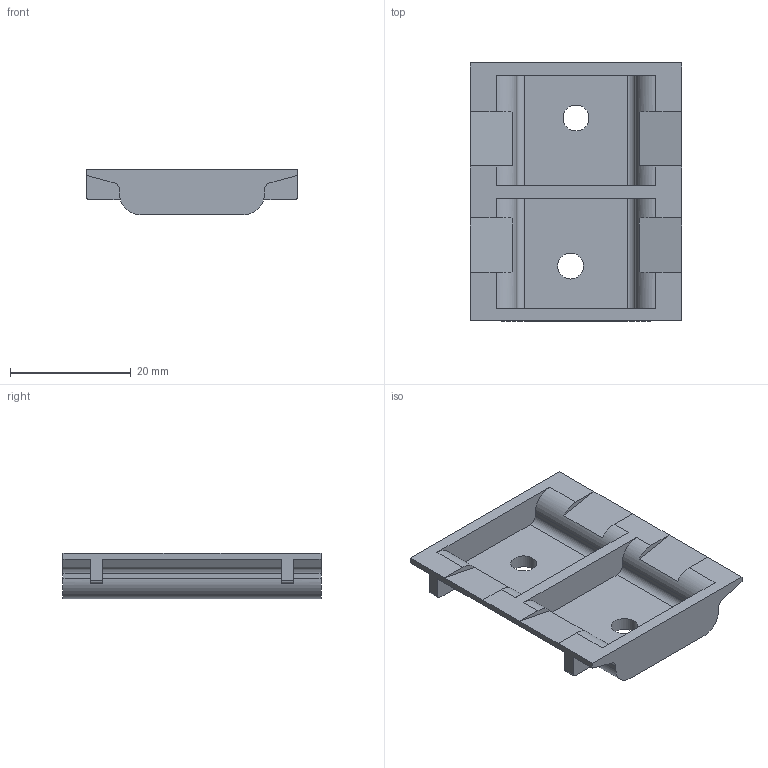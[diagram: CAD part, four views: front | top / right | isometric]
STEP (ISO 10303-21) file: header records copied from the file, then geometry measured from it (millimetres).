
FILE_DESCRIPTION( ( 'Unknown' ), '1' );
FILE_NAME( 'J:/DESBAKUP/3D DATA/MK-050PSC/ASSEMBLIES/3D OUTPUT & IMAGES/MK-050PSC.stp', 'Unknown', ( 'Unknown' ), ( 'Unknown' ), 'PSStep 14.0', 'Unknown', ' ' );
FILE_SCHEMA( ( 'AUTOMOTIVE_DESIGN { 1 0 10303 214 1 1 1 1 }' ) );
Length unit declared in the file: millimetre
Products named in the file (1): 1
Bounding box: 35 x 42.7 x 7.5 mm (x, y, z)
Volume: 4275.4 mm3; surface area: 4612.2 mm2
Topology: 1 solids, 1 shells, 76 faces, 214 edges, 140 vertices
Faces by surface type: plane 54, cylinder 22
Full cylindrical faces by diameter (mm): 4.3 x2
Entity records: 3076 total; most frequent: CARTESIAN_POINT 429, DIRECTION 426, ORIENTED_EDGE 424, EDGE_CURVE 212, LINE 152, VECTOR 152, VERTEX_POINT 140, AXIS2_PLACEMENT_3D 137
